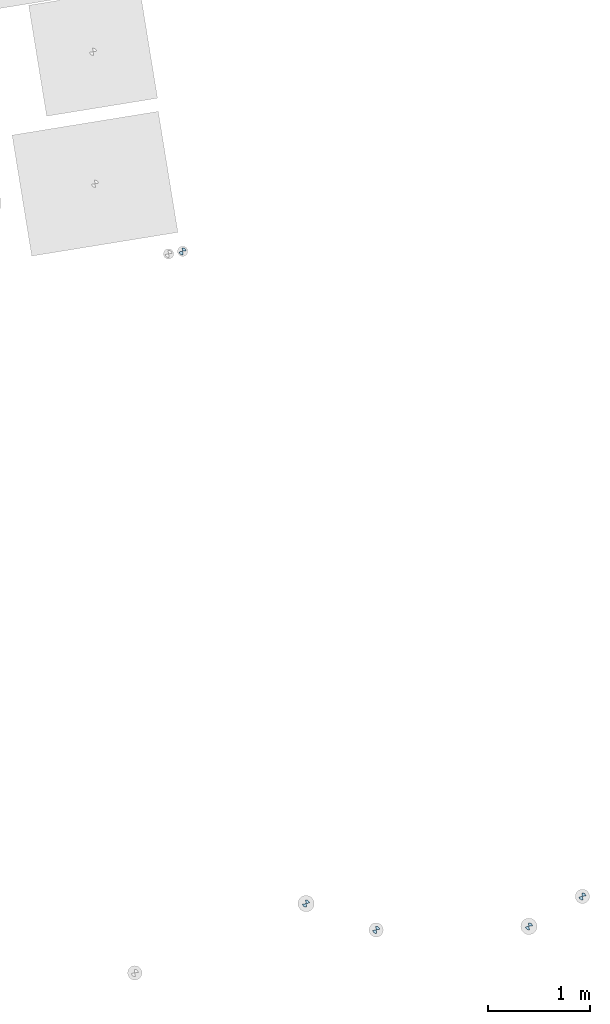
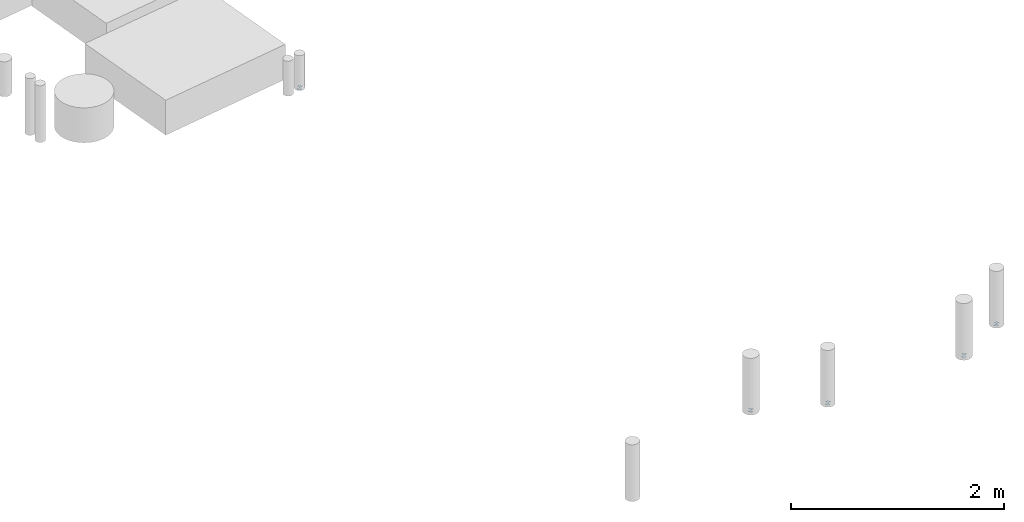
# One storey, part 2 of 4: 5 slabs.
"""IFC2X3 building model written with IfcOpenShell, lengths in millimetres."""

from ifc_helpers import new_model, entity, si_unit, converted_unit, derived_unit, direction, frame, frame_2d, origin, origin_with_axes, place, context, subcontext, project, spatial, polyline, circle_curve, parameter, trimmed, segment, composite_curve, outline, extrude, material, type_object, element, save


model = new_model("IFC2X3")

# Units and contexts
model_context = context("Model", 3, precision=0.01, world=origin(), true_north=direction((6.12323399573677e-17, 1.0)))
plan_context = context("Plan", 3, precision=1e-05, world=origin_with_axes())
body_context = subcontext(model_context, "Body", "Model", "MODEL_VIEW")
ifc_project = project(units=[converted_unit("PLANEANGLEUNIT", "DEGREE", entity("IfcPositiveLengthMeasure", 0.0174532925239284), si_unit("PLANEANGLEUNIT", "RADIAN"), dimensions=[0, 0, 0, 0, 0, 0, 0]), si_unit("AREAUNIT", "SQUARE_METRE"), si_unit("LENGTHUNIT", "METRE", prefix="MILLI"), si_unit("MASSUNIT", "GRAM", prefix="KILO"), si_unit("POWERUNIT", "WATT"), si_unit("PRESSUREUNIT", "PASCAL", prefix="KILO"), si_unit("FORCEUNIT", "NEWTON", prefix="KILO"), si_unit("ELECTRICVOLTAGEUNIT", "VOLT"), si_unit("ELECTRICCURRENTUNIT", "AMPERE"), si_unit("THERMODYNAMICTEMPERATUREUNIT", "DEGREE_CELSIUS"), si_unit("TIMEUNIT", "SECOND"), si_unit("VOLUMEUNIT", "CUBIC_METRE"), derived_unit("LINEARVELOCITYUNIT", [(si_unit("LENGTHUNIT", "METRE"), 1), (si_unit("TIMEUNIT", "SECOND"), -1)]), derived_unit("VOLUMETRICFLOWRATEUNIT", [(si_unit("VOLUMEUNIT", "CUBIC_METRE"), 1), (si_unit("TIMEUNIT", "SECOND"), -1)]), derived_unit("THERMALTRANSMITTANCEUNIT", [(si_unit("POWERUNIT", "WATT"), 1), (si_unit("THERMODYNAMICTEMPERATUREUNIT", "KELVIN"), -1), (si_unit("AREAUNIT", "SQUARE_METRE"), -1)]), derived_unit("SOUNDPRESSUREUNIT", [(si_unit("PRESSUREUNIT", "PASCAL"), 1)])], contexts=[model_context, plan_context])

# Site, building, storey
site_placement = place(None, frame((-0.00071070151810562, 0.00438415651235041, 0.0), z_axis=(0.0, 0.0, 1.0), x_axis=(-0.160236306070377, 0.987078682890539, 0.0)))
site = spatial("IfcSite", under=ifc_project, at=site_placement, Name="Default", CompositionType="ELEMENT")
building_placement = place(site_placement, origin_with_axes())
building = spatial("IfcBuilding", under=site, at=building_placement, CompositionType="ELEMENT")
storey_placement = place(building_placement, frame((0.0, 0.0, 50999.9999999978), z_axis=(0.0, 0.0, 1.0), x_axis=(1.0, 0.0, 0.0)))
storey = spatial("IfcBuildingStorey", under=building, at=storey_placement, Name="Nivå D", CompositionType="ELEMENT", Elevation=50999.9999999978)

# Slabs
ifc_material = material(Name="Black")
slab_type = type_object("IfcSlabType", Name="SurveyMarker:Custom", PredefinedType="BASESLAB", material=ifc_material)
slab_1_placement = place(storey_placement, origin_with_axes())
element("IfcSlab", 1, at=slab_1_placement, inside=storey, type_object=slab_type, Name="SurveyMarker:Custom", ObjectType="SurveyMarker:Custom", PredefinedType="BASESLAB", context=body_context, shape_type="SweptSolid", body=[
    extrude(outline(composite_curve([segment(polyline([(-11.6666666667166, -11.6666666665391), (23.3333333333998, -11.6666666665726)]), True, "CONTINUOUS"), segment(trimmed(circle_curve(frame_2d((-11.6666666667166, -11.6666666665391), x_axis=(0.0, 1.0)), 35.0), [parameter(269.999999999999)], [parameter(359.999999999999)], True, "PARAMETER"), True, "CONTINUOUS"), segment(polyline([(-11.6666666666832, 23.3333333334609), (-11.6666666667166, -11.6666666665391)]), True, "CONTINUOUS")], self_intersect=False)), frame((775845.466002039, -596885.533076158, -400.0), z_axis=(0.0, 0.0, 1.0), x_axis=(0.0, -1.0, 0.0)), (0.0, 0.0, 1.0), 0.799999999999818),
    extrude(outline(composite_curve([segment(polyline([(-11.6666666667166, -11.6666666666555), (23.3333333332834, -11.666666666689)]), True, "CONTINUOUS"), segment(trimmed(circle_curve(frame_2d((-11.6666666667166, -11.6666666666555), x_axis=(0.0, 1.0)), 35.0), [parameter(269.999999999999)], [parameter(359.999999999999)], True, "PARAMETER"), True, "CONTINUOUS"), segment(polyline([(-11.6666666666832, 23.3333333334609), (-11.6666666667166, -11.6666666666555)]), True, "CONTINUOUS")], self_intersect=False)), frame((775822.132668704, -596862.199742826, -400.0), z_axis=(0.0, 0.0, 1.0), x_axis=(0.0, 1.0, 0.0)), (0.0, 0.0, 1.0), 0.799999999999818),
])
slab_2_placement = place(storey_placement, origin_with_axes())
element("IfcSlab", 2, at=slab_2_placement, inside=storey, type_object=slab_type, Name="SurveyMarker:Custom", ObjectType="SurveyMarker:Custom", PredefinedType="BASESLAB", context=body_context, shape_type="SweptSolid", body=[
    extrude(outline(composite_curve([segment(polyline([(-11.6666666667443, -11.6666666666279), (23.3333333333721, -11.6666666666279)]), True, "CONTINUOUS"), segment(trimmed(circle_curve(frame_2d((-11.6666666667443, -11.6666666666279), x_axis=(0.0, 1.0)), 35.0), [parameter(269.999999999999)], [parameter(359.999999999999)], True, "PARAMETER"), True, "CONTINUOUS"), segment(polyline([(-11.6666666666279, 23.3333333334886), (-11.6666666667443, -11.6666666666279)]), True, "CONTINUOUS")], self_intersect=False)), frame((768779.177446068, -599172.554964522, -650.0), z_axis=(0.0, 0.0, 1.0), x_axis=(0.0, -1.0, 0.0)), (0.0, 0.0, 1.0), 0.799999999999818),
    extrude(outline(composite_curve([segment(polyline([(-11.6666666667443, -11.6666666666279), (23.3333333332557, -11.6666666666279)]), True, "CONTINUOUS"), segment(trimmed(circle_curve(frame_2d((-11.6666666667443, -11.6666666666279), x_axis=(0.0, 1.0)), 35.0), [parameter(269.999999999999)], [parameter(359.999999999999)], True, "PARAMETER"), True, "CONTINUOUS"), segment(polyline([(-11.6666666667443, 23.3333333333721), (-11.6666666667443, -11.6666666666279)]), True, "CONTINUOUS")], self_intersect=False)), frame((768755.844112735, -599149.221631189, -650.0), z_axis=(0.0, 0.0, 1.0), x_axis=(0.0, 1.0, 0.0)), (0.0, 0.0, 1.0), 0.799999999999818),
])
slab_3_placement = place(storey_placement, origin_with_axes())
element("IfcSlab", 3, at=slab_3_placement, inside=storey, type_object=slab_type, Name="SurveyMarker:Custom", ObjectType="SurveyMarker:Custom", PredefinedType="BASESLAB", context=body_context, shape_type="SweptSolid", body=[
    extrude(outline(composite_curve([segment(polyline([(-11.6666666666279, -11.6666666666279), (23.3333333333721, -11.6666666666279)]), True, "CONTINUOUS"), segment(trimmed(circle_curve(frame_2d((-11.6666666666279, -11.6666666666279), x_axis=(0.0, 1.0)), 35.0), [parameter(269.999999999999)], [parameter(359.999999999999)], True, "PARAMETER"), True, "CONTINUOUS"), segment(polyline([(-11.6666666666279, 23.3333333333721), (-11.6666666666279, -11.6666666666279)]), True, "CONTINUOUS")], self_intersect=False)), frame((768984.573139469, -599736.874994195, -650.0), z_axis=(0.0, 0.0, 1.0), x_axis=(0.0, -1.0, 0.0)), (0.0, 0.0, 1.0), 0.799999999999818),
    extrude(outline(composite_curve([segment(polyline([(-11.6666666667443, -11.6666666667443), (23.3333333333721, -11.6666666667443)]), True, "CONTINUOUS"), segment(trimmed(circle_curve(frame_2d((-11.6666666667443, -11.6666666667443), x_axis=(0.0, 1.0)), 35.0), [parameter(269.999999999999)], [parameter(359.999999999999)], True, "PARAMETER"), True, "CONTINUOUS"), segment(polyline([(-11.6666666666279, 23.3333333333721), (-11.6666666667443, -11.6666666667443)]), True, "CONTINUOUS")], self_intersect=False)), frame((768961.239806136, -599713.541660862, -650.0), z_axis=(0.0, 0.0, 1.0), x_axis=(0.0, 1.0, 0.0)), (0.0, 0.0, 1.0), 0.799999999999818),
])
slab_4_placement = place(storey_placement, origin_with_axes())
element("IfcSlab", 4, at=slab_4_placement, inside=storey, type_object=slab_type, Name="SurveyMarker:Custom", ObjectType="SurveyMarker:Custom", PredefinedType="BASESLAB", context=body_context, shape_type="SweptSolid", body=[
    extrude(outline(composite_curve([segment(polyline([(-11.6666666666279, -11.6666666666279), (23.3333333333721, -11.6666666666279)]), True, "CONTINUOUS"), segment(trimmed(circle_curve(frame_2d((-11.6666666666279, -11.6666666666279), x_axis=(0.0, 1.0)), 35.0), [parameter(269.999999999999)], [parameter(359.999999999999)], True, "PARAMETER"), True, "CONTINUOUS"), segment(polyline([(-11.6666666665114, 23.3333333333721), (-11.6666666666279, -11.6666666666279)]), True, "CONTINUOUS")], self_intersect=False)), frame((768984.573139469, -597690.994815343, -650.0), z_axis=(0.0, 0.0, 1.0), x_axis=(0.0, -1.0, 0.0)), (0.0, 0.0, 1.0), 0.799999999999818),
    extrude(outline(composite_curve([segment(polyline([(-11.6666666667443, -11.6666666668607), (23.3333333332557, -11.6666666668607)]), True, "CONTINUOUS"), segment(trimmed(circle_curve(frame_2d((-11.6666666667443, -11.6666666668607), x_axis=(0.0, 1.0)), 35.0), [parameter(269.999999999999)], [parameter(359.999999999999)], True, "PARAMETER"), True, "CONTINUOUS"), segment(polyline([(-11.6666666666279, 23.3333333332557), (-11.6666666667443, -11.6666666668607)]), True, "CONTINUOUS")], self_intersect=False)), frame((768961.239806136, -597667.661482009, -650.0), z_axis=(0.0, 0.0, 1.0), x_axis=(0.0, 1.0, 0.0)), (0.0, 0.0, 1.0), 0.799999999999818),
])
slab_5_placement = place(storey_placement, origin_with_axes())
element("IfcSlab", 5, at=slab_5_placement, inside=storey, type_object=slab_type, Name="SurveyMarker:Custom", ObjectType="SurveyMarker:Custom", PredefinedType="BASESLAB", context=body_context, shape_type="SweptSolid", body=[
    extrude(outline(composite_curve([segment(polyline([(-11.6666666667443, -11.6666666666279), (23.3333333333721, -11.6666666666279)]), True, "CONTINUOUS"), segment(trimmed(circle_curve(frame_2d((-11.6666666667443, -11.6666666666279), x_axis=(0.0, 1.0)), 35.0), [parameter(269.999999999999)], [parameter(359.999999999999)], True, "PARAMETER"), True, "CONTINUOUS"), segment(polyline([(-11.6666666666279, 23.3333333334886), (-11.6666666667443, -11.6666666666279)]), True, "CONTINUOUS")], self_intersect=False)), frame((769349.081810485, -597054.986788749, -650.0), z_axis=(0.0, 0.0, 1.0), x_axis=(0.0, -1.0, 0.0)), (0.0, 0.0, 1.0), 0.799999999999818),
    extrude(outline(composite_curve([segment(polyline([(-11.6666666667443, -11.6666666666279), (23.3333333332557, -11.6666666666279)]), True, "CONTINUOUS"), segment(trimmed(circle_curve(frame_2d((-11.6666666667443, -11.6666666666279), x_axis=(0.0, 1.0)), 35.0), [parameter(269.999999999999)], [parameter(359.999999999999)], True, "PARAMETER"), True, "CONTINUOUS"), segment(polyline([(-11.6666666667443, 23.3333333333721), (-11.6666666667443, -11.6666666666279)]), True, "CONTINUOUS")], self_intersect=False)), frame((769325.748477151, -597031.653455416, -650.0), z_axis=(0.0, 0.0, 1.0), x_axis=(0.0, 1.0, 0.0)), (0.0, 0.0, 1.0), 0.799999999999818),
])

save(model, "model.ifc")
